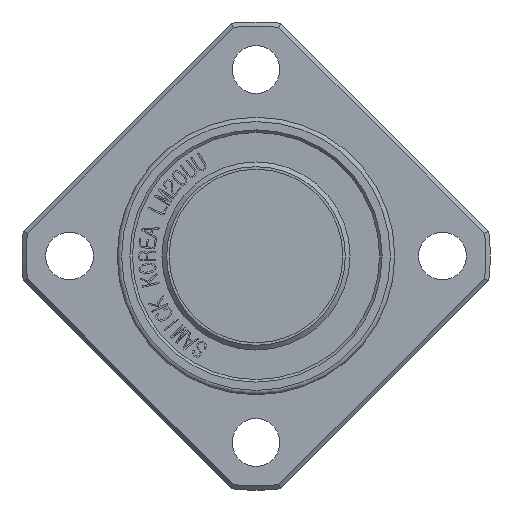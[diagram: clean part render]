
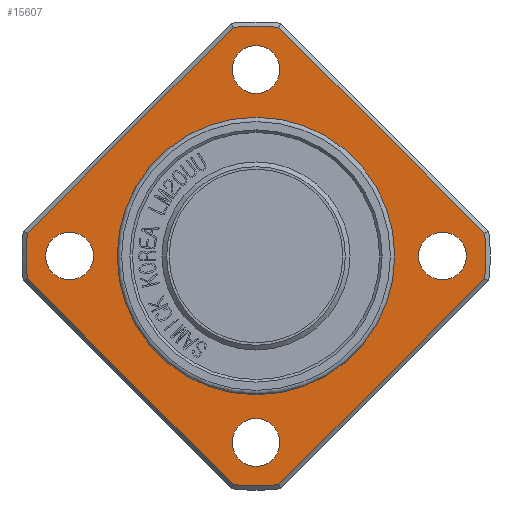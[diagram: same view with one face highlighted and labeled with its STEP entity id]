
A CAD part, front view. The second image highlights one B-rep face of the part: STEP entity #15607.
In plain terms, the highlighted planar face has unit normal (0, -1, 0).
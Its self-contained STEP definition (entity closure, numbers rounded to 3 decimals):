
#2209=FACE_BOUND('',#3238,.T.);
#2210=FACE_BOUND('',#3239,.T.);
#2211=FACE_BOUND('',#3240,.T.);
#2212=FACE_BOUND('',#3241,.T.);
#2213=FACE_BOUND('',#3242,.T.);
#2274=CIRCLE('',#16488,26.5);
#2277=CIRCLE('',#16496,26.5);
#2278=CIRCLE('',#16497,26.5);
#2279=CIRCLE('',#16498,26.5);
#2280=CIRCLE('',#16499,2.75);
#2281=CIRCLE('',#16500,2.75);
#2282=CIRCLE('',#16501,2.75);
#2283=CIRCLE('',#16502,2.75);
#2284=CIRCLE('',#16503,16.);
#2285=CIRCLE('',#16504,16.);
#2373=FACE_OUTER_BOUND('',#3237,.T.);
#3237=EDGE_LOOP('',(#10533,#10534,#10535,#10536,#10537,#10538,#10539,#10540));
#3238=EDGE_LOOP('',(#10541));
#3239=EDGE_LOOP('',(#10542));
#3240=EDGE_LOOP('',(#10543));
#3241=EDGE_LOOP('',(#10544));
#3242=EDGE_LOOP('',(#10545,#10546));
#4159=LINE('',#18701,#5303);
#4165=LINE('',#18745,#5309);
#4167=LINE('',#18751,#5311);
#4168=LINE('',#18755,#5312);
#5303=VECTOR('',#16843,10.);
#5309=VECTOR('',#16867,10.);
#5311=VECTOR('',#16873,10.);
#5312=VECTOR('',#16876,10.);
#6464=VERTEX_POINT('',#18696);
#6465=VERTEX_POINT('',#18700);
#6468=VERTEX_POINT('',#18710);
#6476=VERTEX_POINT('',#18741);
#6477=VERTEX_POINT('',#18748);
#6478=VERTEX_POINT('',#18750);
#6479=VERTEX_POINT('',#18752);
#6480=VERTEX_POINT('',#18754);
#6481=VERTEX_POINT('',#18757);
#6482=VERTEX_POINT('',#18759);
#6483=VERTEX_POINT('',#18761);
#6484=VERTEX_POINT('',#18763);
#6485=VERTEX_POINT('',#18765);
#6486=VERTEX_POINT('',#18766);
#8084=EDGE_CURVE('',#6464,#6465,#4159,.T.);
#8089=EDGE_CURVE('',#6464,#6468,#2274,.T.);
#8100=EDGE_CURVE('',#6476,#6468,#4165,.T.);
#8102=EDGE_CURVE('',#6476,#6477,#2277,.T.);
#8103=EDGE_CURVE('',#6478,#6477,#4167,.T.);
#8104=EDGE_CURVE('',#6478,#6479,#2278,.T.);
#8105=EDGE_CURVE('',#6480,#6479,#4168,.T.);
#8106=EDGE_CURVE('',#6480,#6465,#2279,.T.);
#8107=EDGE_CURVE('',#6481,#6481,#2280,.T.);
#8108=EDGE_CURVE('',#6482,#6482,#2281,.T.);
#8109=EDGE_CURVE('',#6483,#6483,#2282,.T.);
#8110=EDGE_CURVE('',#6484,#6484,#2283,.T.);
#8111=EDGE_CURVE('',#6485,#6486,#2284,.T.);
#8112=EDGE_CURVE('',#6486,#6485,#2285,.T.);
#10533=ORIENTED_EDGE('',*,*,#8084,.F.);
#10534=ORIENTED_EDGE('',*,*,#8089,.T.);
#10535=ORIENTED_EDGE('',*,*,#8100,.F.);
#10536=ORIENTED_EDGE('',*,*,#8102,.T.);
#10537=ORIENTED_EDGE('',*,*,#8103,.F.);
#10538=ORIENTED_EDGE('',*,*,#8104,.T.);
#10539=ORIENTED_EDGE('',*,*,#8105,.F.);
#10540=ORIENTED_EDGE('',*,*,#8106,.T.);
#10541=ORIENTED_EDGE('',*,*,#8107,.T.);
#10542=ORIENTED_EDGE('',*,*,#8108,.T.);
#10543=ORIENTED_EDGE('',*,*,#8109,.T.);
#10544=ORIENTED_EDGE('',*,*,#8110,.T.);
#10545=ORIENTED_EDGE('',*,*,#8111,.F.);
#10546=ORIENTED_EDGE('',*,*,#8112,.F.);
#15365=PLANE('',#16495);
#15607=ADVANCED_FACE('',(#2373,#2209,#2210,#2211,#2212,#2213),#15365,.T.);
#16488=AXIS2_PLACEMENT_3D('',#18714,#16849,#16850);
#16495=AXIS2_PLACEMENT_3D('',#18747,#16869,#16870);
#16496=AXIS2_PLACEMENT_3D('',#18749,#16871,#16872);
#16497=AXIS2_PLACEMENT_3D('',#18753,#16874,#16875);
#16498=AXIS2_PLACEMENT_3D('',#18756,#16877,#16878);
#16499=AXIS2_PLACEMENT_3D('',#18758,#16879,#16880);
#16500=AXIS2_PLACEMENT_3D('',#18760,#16881,#16882);
#16501=AXIS2_PLACEMENT_3D('',#18762,#16883,#16884);
#16502=AXIS2_PLACEMENT_3D('',#18764,#16885,#16886);
#16503=AXIS2_PLACEMENT_3D('',#18767,#16887,#16888);
#16504=AXIS2_PLACEMENT_3D('',#18768,#16889,#16890);
#16843=DIRECTION('',(0.707,0.,-0.707));
#16849=DIRECTION('center_axis',(0.,-1.,0.));
#16850=DIRECTION('ref_axis',(1.,0.,0.));
#16867=DIRECTION('',(0.707,0.,0.707));
#16869=DIRECTION('center_axis',(0.,-1.,0.));
#16870=DIRECTION('ref_axis',(0.,0.,-1.));
#16871=DIRECTION('center_axis',(0.,-1.,0.));
#16872=DIRECTION('ref_axis',(1.,0.,0.));
#16873=DIRECTION('',(-0.707,0.,0.707));
#16874=DIRECTION('center_axis',(0.,-1.,0.));
#16875=DIRECTION('ref_axis',(1.,0.,0.));
#16876=DIRECTION('',(-0.707,0.,-0.707));
#16877=DIRECTION('center_axis',(0.,-1.,0.));
#16878=DIRECTION('ref_axis',(1.,0.,0.));
#16879=DIRECTION('center_axis',(0.,1.,0.));
#16880=DIRECTION('ref_axis',(0.,0.,
1.));
#16881=DIRECTION('center_axis',(0.,1.,0.));
#16882=DIRECTION('ref_axis',(-1.,0.,0.));
#16883=DIRECTION('center_axis',(0.,1.,0.));
#16884=DIRECTION('ref_axis',(0.,0.,
-1.));
#16885=DIRECTION('center_axis',(0.,1.,0.));
#16886=DIRECTION('ref_axis',(1.,0.,0.));
#16887=DIRECTION('center_axis',(0.,-1.,0.));
#16888=DIRECTION('ref_axis',(1.,0.,0.));
#16889=DIRECTION('center_axis',(0.,-1.,0.));
#16890=DIRECTION('ref_axis',(1.,0.,0.));
#18696=CARTESIAN_POINT('',(2.621,32.,26.37));
#18700=CARTESIAN_POINT('',(26.37,32.,2.621));
#18701=CARTESIAN_POINT('',(24.496,32.,4.496));
#18710=CARTESIAN_POINT('',(-2.621,32.,26.37));
#18714=CARTESIAN_POINT('Origin',(0.,32.,0.));
#18741=CARTESIAN_POINT('',(-26.37,32.,2.621));
#18745=CARTESIAN_POINT('',(-4.496,32.,24.496));
#18747=CARTESIAN_POINT('Origin',(16.,32.,0.));
#18748=CARTESIAN_POINT('',(-26.37,32.,-2.621));
#18749=CARTESIAN_POINT('Origin',(0.,32.,0.));
#18750=CARTESIAN_POINT('',(-2.621,32.,-26.37));
#18751=CARTESIAN_POINT('',(-16.496,32.,-12.496));
#18752=CARTESIAN_POINT('',(2.621,32.,-26.37));
#18753=CARTESIAN_POINT('Origin',(0.,32.,0.));
#18754=CARTESIAN_POINT('',(26.37,32.,-2.621));
#18755=CARTESIAN_POINT('',(12.496,32.,-16.496));
#18756=CARTESIAN_POINT('Origin',(0.,32.,0.));
#18757=CARTESIAN_POINT('',(0.,32.,18.75));
#18758=CARTESIAN_POINT('Origin',(0.,32.,21.5));
#18759=CARTESIAN_POINT('',(-18.75,32.,0.));
#18760=CARTESIAN_POINT('Origin',(-21.5,32.,0.));
#18761=CARTESIAN_POINT('',(0.,32.,-18.75));
#18762=CARTESIAN_POINT('Origin',(0.,32.,-21.5));
#18763=CARTESIAN_POINT('',(18.75,32.,0.));
#18764=CARTESIAN_POINT('Origin',(21.5,32.,0.));
#18765=CARTESIAN_POINT('',(16.,32.,0.));
#18766=CARTESIAN_POINT('',(-16.,32.,0.));
#18767=CARTESIAN_POINT('Origin',(0.,32.,0.));
#18768=CARTESIAN_POINT('Origin',(0.,32.,0.));
